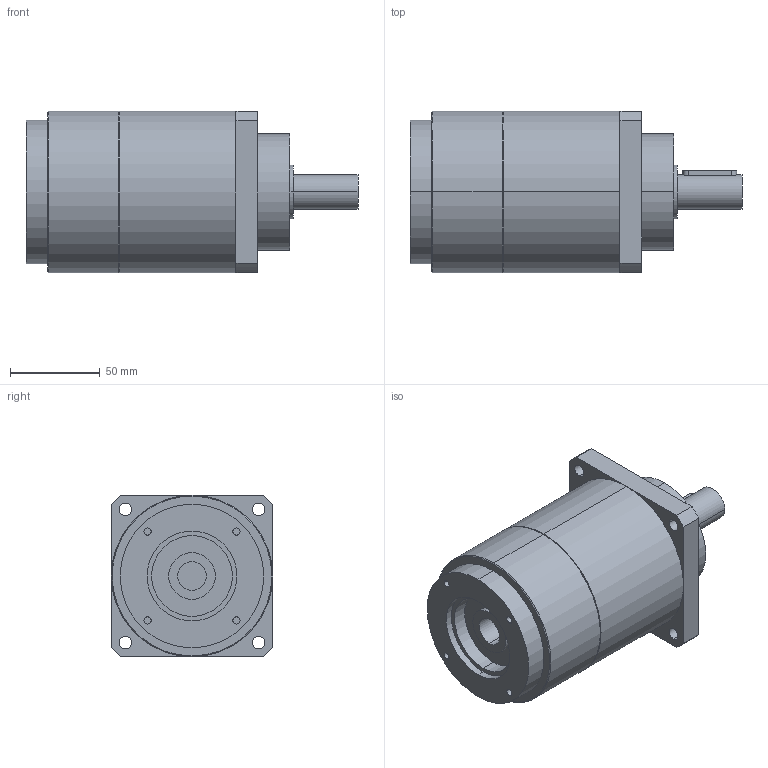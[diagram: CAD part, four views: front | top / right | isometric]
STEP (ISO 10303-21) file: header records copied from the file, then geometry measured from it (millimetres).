
FILE_DESCRIPTION(('CoCreate Modeling STEP Export'),'2;1');
FILE_NAME('GPT90_ig-9-12-16-20-25-28-35-40-50-70-100_19_B5T_15.87_P22.stp','2015-02-04T11:31:29',(''),(''),'CoCreate Modeling STEP processor for AP214 (Solid Model)','CoCreate Modeling 16.00C 25-Feb-2009 (C) Parametric Technology GmbH','');
FILE_SCHEMA(('AUTOMOTIVE_DESIGN { 1 0 10303 214 1 1 1 1 }'));
Length unit declared in the file: millimetre
Products named in the file (2): GPT90_ig-9-12-16-20-25-28-35-40-50-70-100_19_B5T_15.87_P22
Assembly tree (1 placements, depth 2):
  GPT90_ig-9-12-16-20-25-28-35-40-50-70-100_19_B5T_15.87_P22
    GPT90_ig-9-12-16-20-25-28-35-40-50-70-100_19_B5T_15.87_P22
Bounding box: 185 x 90 x 90 mm (x, y, z)
Volume: 867662.7 mm3; surface area: 64702.7 mm2
Topology: 1 solids, 1 shells, 75 faces, 190 edges, 131 vertices
Faces by surface type: cylinder 44, plane 27, cone 4
Entity records: 2388 total; most frequent: CARTESIAN_POINT 704, ORIENTED_EDGE 380, DIRECTION 282, EDGE_CURVE 190, VERTEX_POINT 131, AXIS2_PLACEMENT_3D 106, EDGE_LOOP 97, FACE_OUTER_BOUND 75
